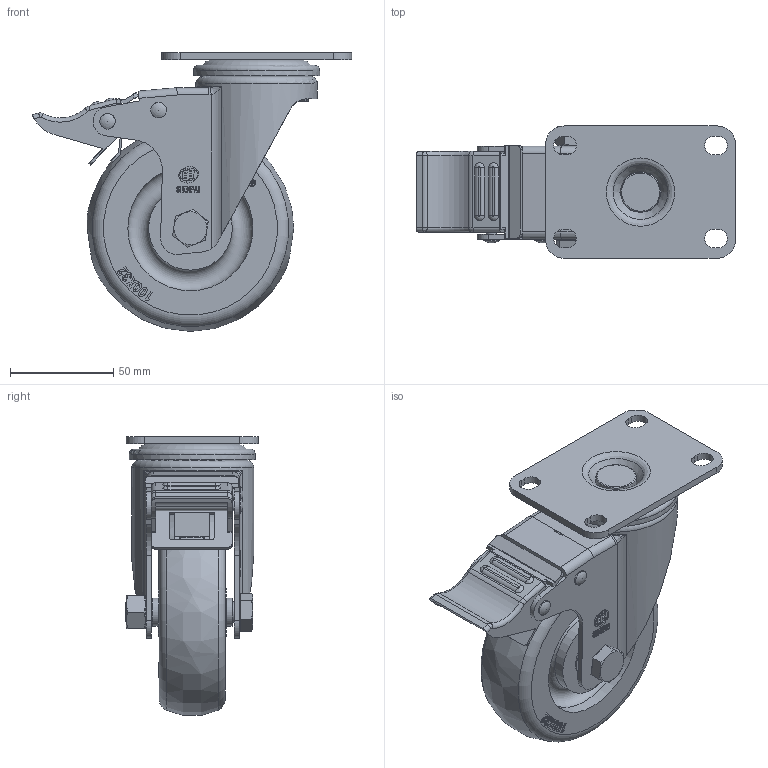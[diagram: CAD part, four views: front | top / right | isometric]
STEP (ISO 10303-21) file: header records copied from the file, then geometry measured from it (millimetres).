
FILE_DESCRIPTION(/* description */ (''),/* implementation_level */ '2;1');
FILE_NAME(/* name */ '20AC5_4_F.stp',/* time_stamp */ '2022-10-06T15:03:50+08:00',/* author */ (''),/* organization */ (''),/* preprocessor_version */ 'ST-DEVELOPER v14',/* originating_system */ 'SIEMENS PLM Software NX 8.0',/* authorisation */ '');
FILE_SCHEMA (('AUTOMOTIVE_DESIGN { 1 0 10303 214 3 1 1 1 }'));
Length unit declared in the file: millimetre
Products named in the file (1): 20AC5_4_F
Bounding box: 154.47 x 64.25 x 134.93 mm (x, y, z)
Volume: 294607.7 mm3; surface area: 98577.8 mm2
Topology: 1 solids, 1 shells, 1064 faces, 3071 edges, 2028 vertices
Faces by surface type: plane 569, cylinder 282, torus 77, sphere 44, cone 36, bspline 32, extrusion 24
Full cylindrical faces by diameter (mm): 2.841 x1, 3.44 x1, 4 x2, 5 x2, 5.2 x7, 7.5 x2, 10 x2, 12 x1, 12.2 x1, 12.496 x1, 13.6 x2, 16 x1, 23 x2, 30.122 x1, 40.5 x2, 45.996 x1, 54 x1, 56 x1, 59 x1, 60.5 x2, 61 x1
Entity records: 40134 total; most frequent: CARTESIAN_POINT 14111, ORIENTED_EDGE 5648, DIRECTION 4945, EDGE_CURVE 2824, VERTEX_POINT 1907, AXIS2_PLACEMENT_3D 1751, VECTOR 1443, LINE 1419
